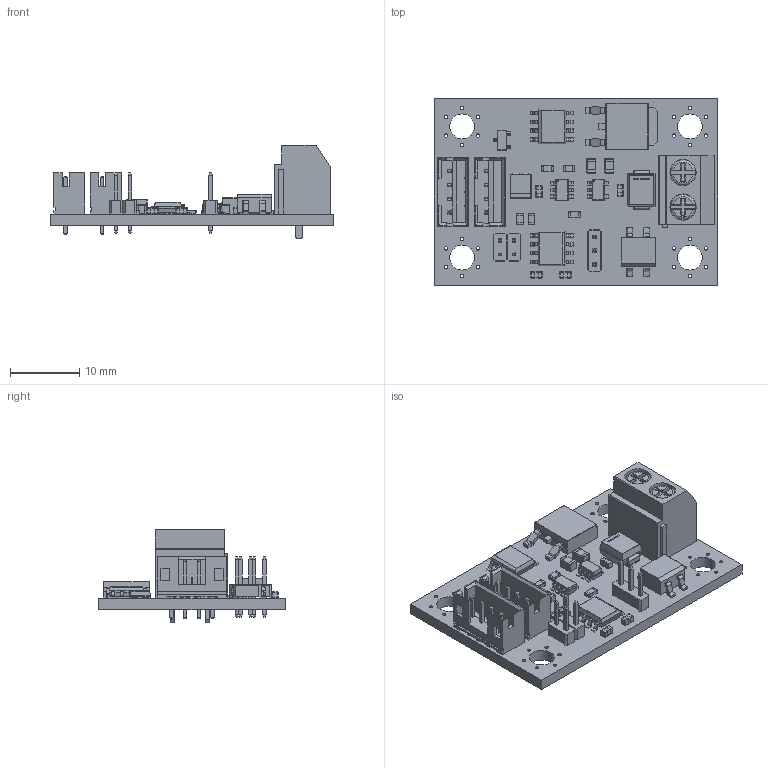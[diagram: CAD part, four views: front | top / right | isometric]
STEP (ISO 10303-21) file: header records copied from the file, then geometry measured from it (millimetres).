
FILE_DESCRIPTION(('Open CASCADE Model'),'2;1');
FILE_NAME('Open CASCADE Shape Model','2026-07-18T10:44:50',('Author'),( 'Open CASCADE'),'Open CASCADE STEP processor 6.8','Open CASCADE 6.8' ,'Unknown');
FILE_SCHEMA(('AUTOMOTIVE_DESIGN { 1 0 10303 214 1 1 1 1 }'));
Length unit declared in the file: millimetre
Products named in the file (43): PCB; Board; U4; SN75176BDR; U1; TPS783XXDDC; U3; U2; MCP4725; R6; MCR03; R5; R4; R3; R2; Q2; MJD44H11; Q1; FDN306P; J5; PHSS03G20; J4; 112504ST; J3; DT-126VP-02P; J2; PHDS04G22; PHDS02G22_PHDS02G11; J1; D3; SMBJP6KE39A; D2; MBxS; C7; GRM188; C6; GRM21B; C5; C4; B45196H-B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
Assembly tree (53 placements, depth 4):
  PCB
    Board
    U4
      SN75176BDR
    U1
      TPS783XXDDC
    U3
      SN75176BDR
    U2
      MCP4725
    R6
      MCR03
    R5
      MCR03
    R4
      MCR03
    R3
      MCR03
    R2
      MCR03
    Q2
      MJD44H11
    Q1
      FDN306P
    J5
      PHSS03G20
    J4
      112504ST
    J3
      DT-126VP-02P
    J2
      PHDS04G22
        PHDS02G22_PHDS02G11  x2
    J1
      112504ST
    D3
      SMBJP6KE39A
    D2
      MBxS
    C7
      GRM188
    C6
      GRM21B
    C5
      GRM21B
    C4
      B45196H-B
    C3
      GRM188
    C2
      GRM188
    C1
      GRM188
Bounding box: 41 x 27 x 13.6 mm (x, y, z)
Volume: 2973.4 mm3; surface area: 5569.8 mm2
Topology: 30 solids, 30 shells, 3136 faces, 7598 edges, 4397 vertices
Faces by surface type: plane 1474, cylinder 1138, torus 300, sphere 208, bspline 16
Full cylindrical faces by diameter (mm): 0.5 x24, 0.85 x15, 1.5 x2, 3.6 x4
Entity records: 76609 total; most frequent: CARTESIAN_POINT 11307, DIRECTION 11124, ORIENTED_EDGE 10302, EDGE_CURVE 5151, AXIS2_PLACEMENT_3D 3958, LINE 3208, VECTOR 3208, VERTEX_POINT 3053
